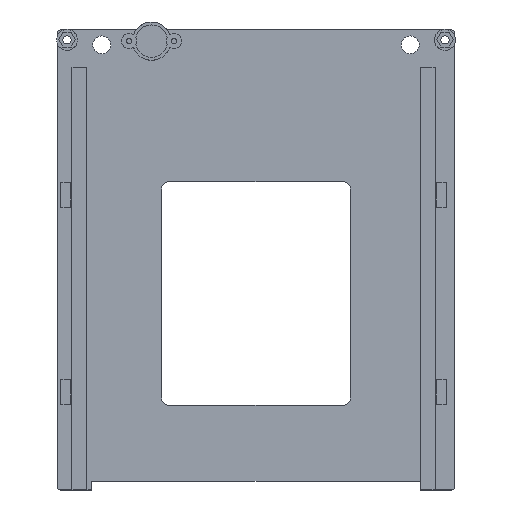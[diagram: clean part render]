
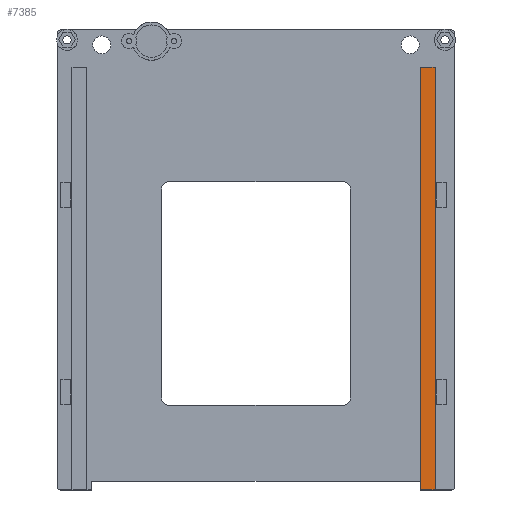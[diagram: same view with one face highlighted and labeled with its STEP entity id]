
A CAD part, top view. The second image highlights one B-rep face of the part: STEP entity #7385.
In plain terms, the highlighted planar face has unit normal (0, 0, 1).
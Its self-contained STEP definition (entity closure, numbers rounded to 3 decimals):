
#451 = PLANE('',#452);
#452 = AXIS2_PLACEMENT_3D('',#453,#454,#455);
#453 = CARTESIAN_POINT('',(4.,16.,3.2));
#454 = DIRECTION('',(0.,1.,0.));
#455 = DIRECTION('',(0.,0.,1.));
#479 = PLANE('',#480);
#480 = AXIS2_PLACEMENT_3D('',#481,#482,#483);
#481 = CARTESIAN_POINT('',(150.05,16.,5.2));
#482 = DIRECTION('',(1.,0.,0.));
#483 = DIRECTION('',(0.,0.,1.));
#507 = PLANE('',#508);
#508 = AXIS2_PLACEMENT_3D('',#509,#510,#511);
#509 = CARTESIAN_POINT('',(150.05,186.,5.2));
#510 = DIRECTION('',(0.,1.,0.));
#511 = DIRECTION('',(0.,0.,1.));
#535 = PLANE('',#536);
#536 = AXIS2_PLACEMENT_3D('',#537,#538,#539);
#537 = CARTESIAN_POINT('',(156.05,16.,5.2));
#538 = DIRECTION('',(1.,0.,0.));
#539 = DIRECTION('',(0.,0.,1.));
#4460 = VERTEX_POINT('',#4461);
#4461 = CARTESIAN_POINT('',(150.05,16.,9.));
#4482 = EDGE_CURVE('',#4460,#4483,#4485,.T.);
#4483 = VERTEX_POINT('',#4484);
#4484 = CARTESIAN_POINT('',(156.05,16.,9.));
#4485 = SURFACE_CURVE('',#4486,(#4490,#4497),.PCURVE_S1.);
#4486 = LINE('',#4487,#4488);
#4487 = CARTESIAN_POINT('',(150.05,16.,9.));
#4488 = VECTOR('',#4489,1.);
#4489 = DIRECTION('',(1.,0.,0.));
#4490 = PCURVE('',#451,#4491);
#4491 = DEFINITIONAL_REPRESENTATION('',(#4492),#4496);
#4492 = LINE('',#4493,#4494);
#4493 = CARTESIAN_POINT('',(5.8,146.05));
#4494 = VECTOR('',#4495,1.);
#4495 = DIRECTION('',(0.,1.));
#4496 = ( GEOMETRIC_REPRESENTATION_CONTEXT(2) 
PARAMETRIC_REPRESENTATION_CONTEXT() REPRESENTATION_CONTEXT('2D SPACE',''
  ) );
#4497 = PCURVE('',#4498,#4503);
#4498 = PLANE('',#4499);
#4499 = AXIS2_PLACEMENT_3D('',#4500,#4501,#4502);
#4500 = CARTESIAN_POINT('',(150.05,16.,9.));
#4501 = DIRECTION('',(0.,0.,1.));
#4502 = DIRECTION('',(1.,0.,0.));
#4503 = DEFINITIONAL_REPRESENTATION('',(#4504),#4508);
#4504 = LINE('',#4505,#4506);
#4505 = CARTESIAN_POINT('',(0.,0.));
#4506 = VECTOR('',#4507,1.);
#4507 = DIRECTION('',(1.,0.));
#4508 = ( GEOMETRIC_REPRESENTATION_CONTEXT(2) 
PARAMETRIC_REPRESENTATION_CONTEXT() REPRESENTATION_CONTEXT('2D SPACE',''
  ) );
#4539 = VERTEX_POINT('',#4540);
#4540 = CARTESIAN_POINT('',(156.05,186.,9.));
#4561 = EDGE_CURVE('',#4483,#4539,#4562,.T.);
#4562 = SURFACE_CURVE('',#4563,(#4567,#4574),.PCURVE_S1.);
#4563 = LINE('',#4564,#4565);
#4564 = CARTESIAN_POINT('',(156.05,16.,9.));
#4565 = VECTOR('',#4566,1.);
#4566 = DIRECTION('',(0.,1.,0.));
#4567 = PCURVE('',#535,#4568);
#4568 = DEFINITIONAL_REPRESENTATION('',(#4569),#4573);
#4569 = LINE('',#4570,#4571);
#4570 = CARTESIAN_POINT('',(3.8,0.));
#4571 = VECTOR('',#4572,1.);
#4572 = DIRECTION('',(0.,-1.));
#4573 = ( GEOMETRIC_REPRESENTATION_CONTEXT(2) 
PARAMETRIC_REPRESENTATION_CONTEXT() REPRESENTATION_CONTEXT('2D SPACE',''
  ) );
#4574 = PCURVE('',#4498,#4575);
#4575 = DEFINITIONAL_REPRESENTATION('',(#4576),#4580);
#4576 = LINE('',#4577,#4578);
#4577 = CARTESIAN_POINT('',(6.,0.));
#4578 = VECTOR('',#4579,1.);
#4579 = DIRECTION('',(0.,1.));
#4580 = ( GEOMETRIC_REPRESENTATION_CONTEXT(2) 
PARAMETRIC_REPRESENTATION_CONTEXT() REPRESENTATION_CONTEXT('2D SPACE',''
  ) );
#4587 = VERTEX_POINT('',#4588);
#4588 = CARTESIAN_POINT('',(150.05,186.,9.));
#4609 = EDGE_CURVE('',#4587,#4539,#4610,.T.);
#4610 = SURFACE_CURVE('',#4611,(#4615,#4622),.PCURVE_S1.);
#4611 = LINE('',#4612,#4613);
#4612 = CARTESIAN_POINT('',(150.05,186.,9.));
#4613 = VECTOR('',#4614,1.);
#4614 = DIRECTION('',(1.,0.,0.));
#4615 = PCURVE('',#507,#4616);
#4616 = DEFINITIONAL_REPRESENTATION('',(#4617),#4621);
#4617 = LINE('',#4618,#4619);
#4618 = CARTESIAN_POINT('',(3.8,0.));
#4619 = VECTOR('',#4620,1.);
#4620 = DIRECTION('',(0.,1.));
#4621 = ( GEOMETRIC_REPRESENTATION_CONTEXT(2) 
PARAMETRIC_REPRESENTATION_CONTEXT() REPRESENTATION_CONTEXT('2D SPACE',''
  ) );
#4622 = PCURVE('',#4498,#4623);
#4623 = DEFINITIONAL_REPRESENTATION('',(#4624),#4628);
#4624 = LINE('',#4625,#4626);
#4625 = CARTESIAN_POINT('',(0.,170.));
#4626 = VECTOR('',#4627,1.);
#4627 = DIRECTION('',(1.,0.));
#4628 = ( GEOMETRIC_REPRESENTATION_CONTEXT(2) 
PARAMETRIC_REPRESENTATION_CONTEXT() REPRESENTATION_CONTEXT('2D SPACE',''
  ) );
#4637 = EDGE_CURVE('',#4460,#4587,#4638,.T.);
#4638 = SURFACE_CURVE('',#4639,(#4643,#4650),.PCURVE_S1.);
#4639 = LINE('',#4640,#4641);
#4640 = CARTESIAN_POINT('',(150.05,16.,9.));
#4641 = VECTOR('',#4642,1.);
#4642 = DIRECTION('',(0.,1.,0.));
#4643 = PCURVE('',#479,#4644);
#4644 = DEFINITIONAL_REPRESENTATION('',(#4645),#4649);
#4645 = LINE('',#4646,#4647);
#4646 = CARTESIAN_POINT('',(3.8,0.));
#4647 = VECTOR('',#4648,1.);
#4648 = DIRECTION('',(0.,-1.));
#4649 = ( GEOMETRIC_REPRESENTATION_CONTEXT(2) 
PARAMETRIC_REPRESENTATION_CONTEXT() REPRESENTATION_CONTEXT('2D SPACE',''
  ) );
#4650 = PCURVE('',#4498,#4651);
#4651 = DEFINITIONAL_REPRESENTATION('',(#4652),#4656);
#4652 = LINE('',#4653,#4654);
#4653 = CARTESIAN_POINT('',(0.,0.));
#4654 = VECTOR('',#4655,1.);
#4655 = DIRECTION('',(0.,1.));
#4656 = ( GEOMETRIC_REPRESENTATION_CONTEXT(2) 
PARAMETRIC_REPRESENTATION_CONTEXT() REPRESENTATION_CONTEXT('2D SPACE',''
  ) );
#7385 = ADVANCED_FACE('',(#7386),#4498,.T.);
#7386 = FACE_BOUND('',#7387,.T.);
#7387 = EDGE_LOOP('',(#7388,#7389,#7390,#7391));
#7388 = ORIENTED_EDGE('',*,*,#4637,.F.);
#7389 = ORIENTED_EDGE('',*,*,#4482,.T.);
#7390 = ORIENTED_EDGE('',*,*,#4561,.T.);
#7391 = ORIENTED_EDGE('',*,*,#4609,.F.);
